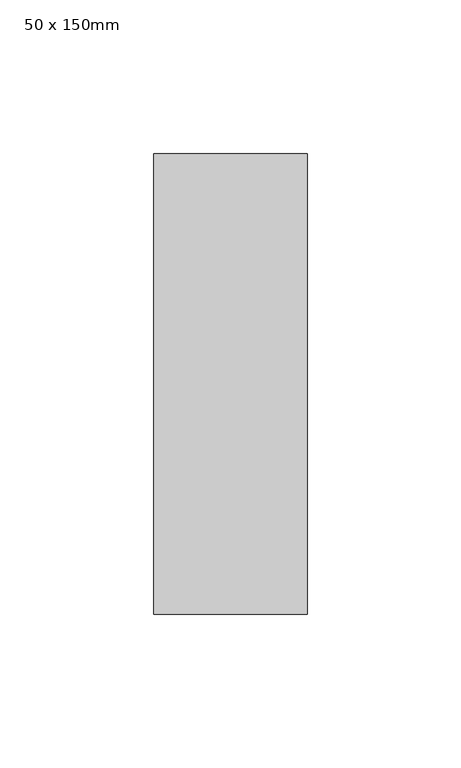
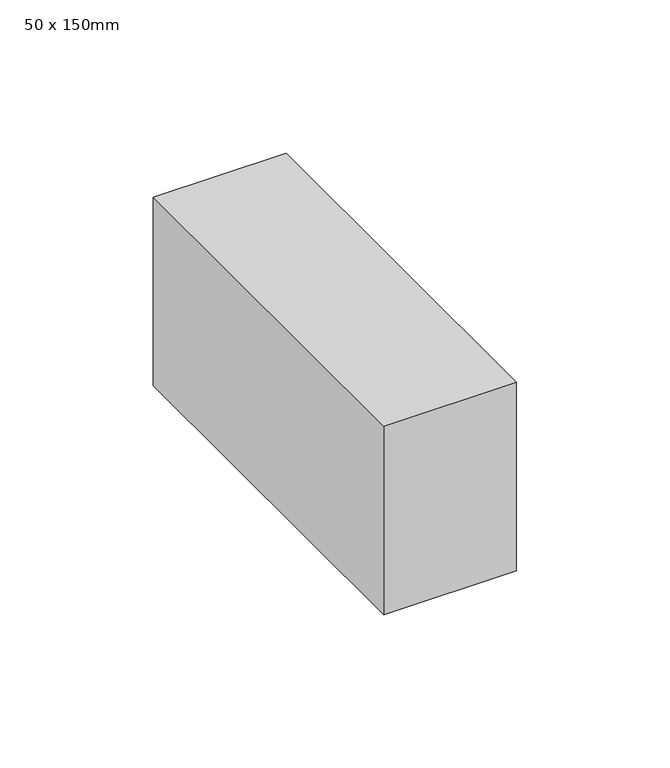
"""IFC4 building model written with IfcOpenShell, lengths in millimetres: member geometry, Прямоугольный импост : 50 x 150mm."""

from ifc_helpers import new_model, si_unit, frame, origin, place, context, project, spatial, polyline, outline, extrude, source, transform, mapped, element, save


def member_50_x_150mm_0bcb7bbe(model_context):
    return source(origin(), model_context, "Body", "SweptSolid", [
        extrude(outline(polyline([(25.0, 75.0), (25.0, -75.0), (-25.0, -75.0), (-25.0, 75.0), (25.0, 75.0)])), frame((0.0, 0.0, -75.0), z_axis=(0.0, 0.0, 1.0), x_axis=(1.0, 0.0, 0.0)), (0.0, 0.0, 1.0), 75.0),
    ])


if __name__ == "__main__":
    model = new_model("IFC4")
    model_context = context("Model", 3, world=origin())
    ifc_project = project(units=[si_unit("LENGTHUNIT", "METRE", prefix="MILLI")], contexts=[model_context])
    site = spatial("IfcSite", under=ifc_project)
    building = spatial("IfcBuilding", under=site)
    placement = place(None, origin())
    member_50_x_150mm_shape = member_50_x_150mm_0bcb7bbe(model_context)
    element("IfcMember", 1, ObjectType="Прямоугольный импост : 50 x 150mm", at=placement, inside=building, context=model_context, shape_type="MappedRepresentation", body=[
        mapped(member_50_x_150mm_shape, transform((0.0, 0.0, 0.0), x_axis=(1.0, 0.0, 0.0), y_axis=(0.0, 1.0, 0.0), z_axis=(0.0, 0.0, 1.0))),
    ])
    save(model, "model.ifc")
